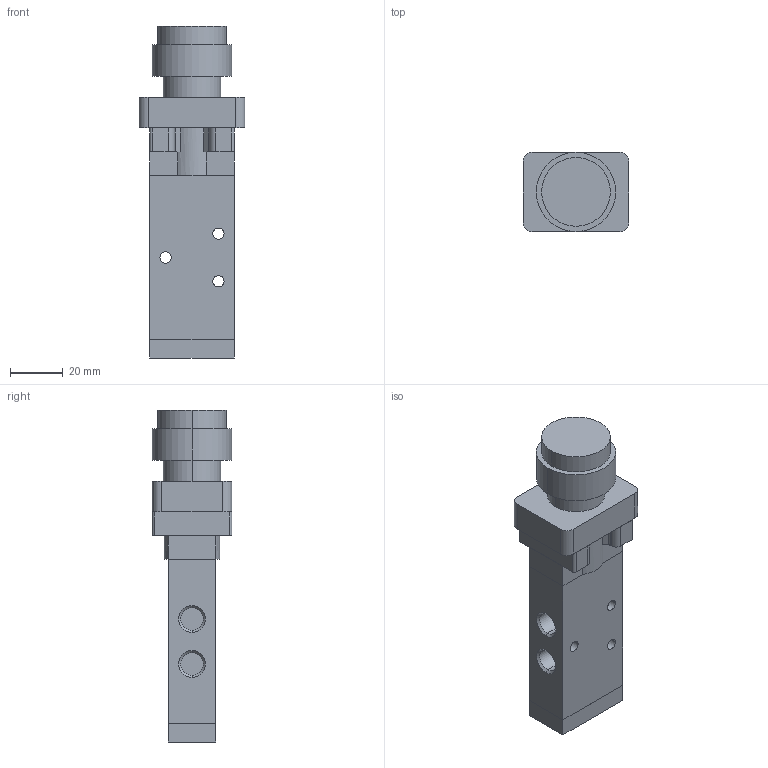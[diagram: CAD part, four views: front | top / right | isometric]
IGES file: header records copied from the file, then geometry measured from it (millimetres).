
Global section: file name: No Iges File Name specified; native system: AutoDesk Inventor R11.0; preprocessor: AutoDesk Inventor Iges Exporter R11.0; author: No Author specified; organization: No Organization specified; date: 20061219.114220; units: millimetre
Bounding box: 40 x 30.02 x 125.5 mm (x, y, z)
Volume: 78229.3 mm3; surface area: 17568.9 mm2
Topology: 1 solids, 1 shells, 100 faces, 250 edges, 162 vertices
Faces by surface type: plane 45, bspline 25, cylinder 20, revolution 10
